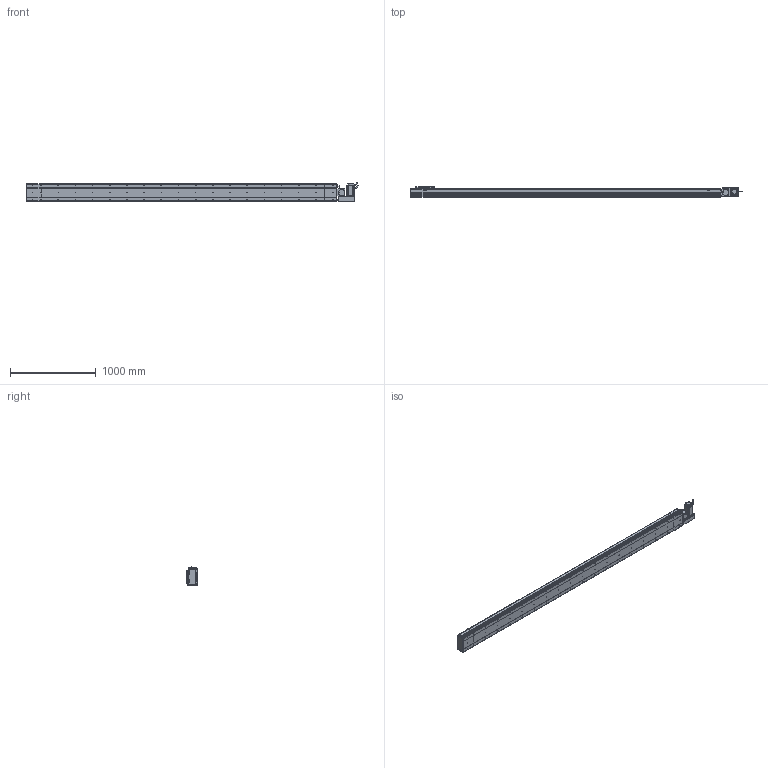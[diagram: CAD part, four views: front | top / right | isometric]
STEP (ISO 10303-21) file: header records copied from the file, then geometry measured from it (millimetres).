
FILE_DESCRIPTION (( 'STEP AP214' ), '1' );
FILE_NAME ('D20 CBH RH S3300.STEP', '2010-06-30T10:50:34', ( 'Conseil Régional Haute-Normandie' ), ( 'Conseil Régional Haute-Normandie' ), 'SwSTEP 2.0', 'SolidWorks 2010', '' );
FILE_SCHEMA (( 'AUTOMOTIVE_DESIGN' ));
Length unit declared in the file: millimetre
Products named in the file (31): codeur 90BLDC125-640; ecrou_Default; Conecteur_Default; vis M5 L30_Default; Cache Support Moteur RH_Default; vis M5 L47_Default; Chariot D20_Default; Support Chariot D20_Default; Glissiere_Default; Corp D20 S3300_Default; Corp S3300_Default; Couvercle S3300_Default; Tail D20+100_Default; Corp Tail D20+100_Default; Couvercle_Default; Head D20 RH_Default; Plaque de Bout Tail D20_Default; D20 CBH RH S3300; Plaque De Serrage D20_Default; Couvercle RH_Default; Corp Tail D20 RH_Default; vis M5 L15_Default; Plaque De Serrage D20 RH_Default; Plaque de Bout Head D20 RH_Default; Rondelle Cache D20 RH_Default; Support moteur RH_Default; Moteur motionking 90BLDC125A-640; avant 90BLDC125A-640; corps 90BLDC125A-640; Conecteur2_Default
Assembly tree (68 placements, depth 4):
  D20 CBH RH S3300
    Chariot D20_Default
      vis M5 L15_Default  x8
      Chariot D20_Default
      Glissiere_Default
      Support Chariot D20_Default
    Head D20 RH_Default
      vis M5 L30_Default  x4
      Plaque de Bout Head D20 RH_Default
      vis M5 L15_Default  x14
      Couvercle RH_Default
      Plaque De Serrage D20 RH_Default
      Moteur motionking 90BLDC125A-640
        corps 90BLDC125A-640
        Conecteur2_Default
        Conecteur_Default
        codeur 90BLDC125-640
        avant 90BLDC125A-640
      vis M5 L47_Default  x4
      Corp Tail D20 RH_Default
      Rondelle Cache D20 RH_Default  x3
      Support moteur RH_Default
      ecrou_Default  x4
      Cache Support Moteur RH_Default
    Corp D20 S3300_Default
      Corp S3300_Default
      Couvercle S3300_Default
    Tail D20+100_Default
      Corp Tail D20+100_Default
      vis M5 L15_Default  x6
      Couvercle_Default
      Plaque de Bout Tail D20_Default
      Plaque De Serrage D20_Default
Bounding box: 3865.45 x 119.5 x 229.7 mm (x, y, z)
Volume: 25136580.8 mm3; surface area: 4818633.4 mm2
Topology: 105 solids, 105 shells, 3883 faces, 9642 edges, 6262 vertices
Faces by surface type: plane 2152, bspline 806, cylinder 754, torus 95, cone 72, sphere 4
Entity records: 161270 total; most frequent: CARTESIAN_POINT 82619, ORIENTED_EDGE 15552, DIRECTION 11974, EDGE_CURVE 7776, VERTEX_POINT 5146, LINE 4996, VECTOR 4996, AXIS2_PLACEMENT_3D 3489
